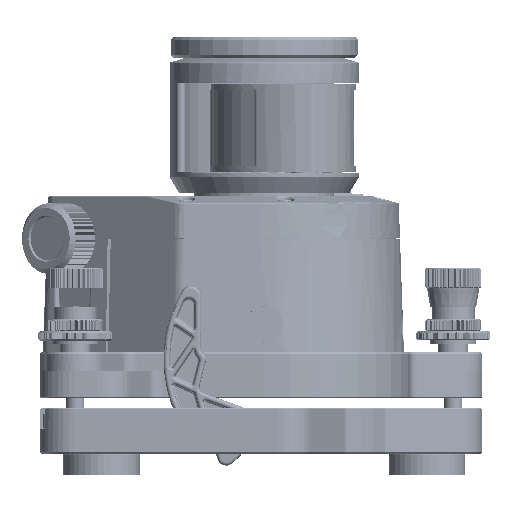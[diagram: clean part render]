
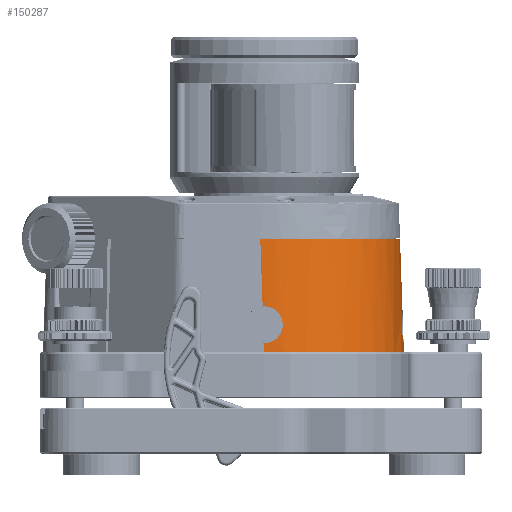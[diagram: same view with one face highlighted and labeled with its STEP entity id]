
A CAD part, front view. The second image highlights one B-rep face of the part: STEP entity #150287.
In plain terms, the highlighted cylindrical face has radius 45.5 mm (diameter 91 mm), a partial arc.
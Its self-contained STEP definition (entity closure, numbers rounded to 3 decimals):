
#680=ELLIPSE('',#156568,45.555,45.5);
#681=ELLIPSE('',#156569,45.555,45.5);
#15108=LINE('',#216321,#21443);
#15109=LINE('',#216323,#21444);
#15114=LINE('',#216369,#21449);
#15115=LINE('',#216371,#21450);
#21443=VECTOR('',#173618,1000.);
#21444=VECTOR('',#173619,1000.);
#21449=VECTOR('',#173630,1000.);
#21450=VECTOR('',#173631,1000.);
#28394=ORIENTED_EDGE('',*,*,#63193,.T.);
#28395=ORIENTED_EDGE('',*,*,#63189,.T.);
#28396=ORIENTED_EDGE('',*,*,#63191,.T.);
#28397=ORIENTED_EDGE('',*,*,#63194,.T.);
#28398=ORIENTED_EDGE('',*,*,#63195,.T.);
#28399=ORIENTED_EDGE('',*,*,#63185,.T.);
#28400=ORIENTED_EDGE('',*,*,#63180,.T.);
#28401=ORIENTED_EDGE('',*,*,#63182,.T.);
#28402=ORIENTED_EDGE('',*,*,#63184,.T.);
#28403=ORIENTED_EDGE('',*,*,#63196,.T.);
#63180=EDGE_CURVE('',#80719,#80720,#91918,.T.);
#63182=EDGE_CURVE('',#80720,#80721,#91919,.F.);
#63184=EDGE_CURVE('',#80721,#80722,#15108,.T.);
#63185=EDGE_CURVE('',#80723,#80719,#15109,.T.);
#63189=EDGE_CURVE('',#80726,#80727,#91920,.F.);
#63191=EDGE_CURVE('',#80727,#80728,#91921,.F.);
#63193=EDGE_CURVE('',#80729,#80726,#15114,.T.);
#63194=EDGE_CURVE('',#80728,#80730,#15115,.T.);
#63195=EDGE_CURVE('',#80730,#80723,#680,.T.);
#63196=EDGE_CURVE('',#80722,#80729,#681,.T.);
#80719=VERTEX_POINT('',#216285);
#80720=VERTEX_POINT('',#216286);
#80721=VERTEX_POINT('',#216288);
#80722=VERTEX_POINT('',#216322);
#80723=VERTEX_POINT('',#216324);
#80726=VERTEX_POINT('',#216347);
#80727=VERTEX_POINT('',#216348);
#80728=VERTEX_POINT('',#216350);
#80729=VERTEX_POINT('',#216370);
#80730=VERTEX_POINT('',#216372);
#91918=B_SPLINE_CURVE_WITH_KNOTS('',3,(#216281,#216282,#216283,#216284),
 .UNSPECIFIED.,.F.,.F.,(4,4),(-0.934,-0.926),
 .UNSPECIFIED.);
#91919=B_SPLINE_CURVE_WITH_KNOTS('',3,(#216289,#216290,#216291,#216292,
#216293,#216294,#216295,#216296,#216297,#216298,#216299,#216300,#216301,
#216302,#216303,#216304,#216305,#216306,#216307,#216308,#216309,#216310,
#216311,#216312,#216313,#216314,#216315,#216316,#216317,#216318),
 .UNSPECIFIED.,.F.,.F.,(4,1,1,1,1,1,1,1,1,1,1,1,1,1,1,1,1,1,1,1,1,1,1,1,
1,1,1,4),(0.,0.063,0.094,0.125,0.141,0.148,0.156,0.188,0.25,
0.281,0.313,0.375,0.391,0.406,0.438,0.5,0.563,0.594,0.625,0.641,
0.656,0.688,0.75,0.813,0.844,0.875,0.938,1.),.UNSPECIFIED.);
#91920=B_SPLINE_CURVE_WITH_KNOTS('',3,(#216331,#216332,#216333,#216334,
#216335,#216336,#216337,#216338,#216339,#216340,#216341,#216342,#216343,
#216344,#216345,#216346),.UNSPECIFIED.,.F.,.F.,(4,1,1,1,1,1,1,1,1,1,1,1,
1,4),(0.,0.125,0.188,0.25,0.313,0.375,0.5,0.563,0.625,0.688,0.75,0.813,
0.875,1.),.UNSPECIFIED.);
#91921=B_SPLINE_CURVE_WITH_KNOTS('',3,(#216351,#216352,#216353,#216354,
#216355,#216356,#216357,#216358,#216359,#216360,#216361,#216362,#216363,
#216364,#216365,#216366),.UNSPECIFIED.,.F.,.F.,(4,1,1,1,1,1,1,1,1,1,1,1,
1,4),(0.,0.125,0.188,0.25,0.313,0.375,0.5,0.563,0.625,0.688,0.75,0.813,
0.875,1.),.UNSPECIFIED.);
#92650=EDGE_LOOP('',(#28394,#28395,#28396,#28397,#28398,#28399,#28400,#28401,
#28402,#28403));
#99018=FACE_BOUND('',#92650,.T.);
#105251=CYLINDRICAL_SURFACE('',#156567,45.5);
#150287=ADVANCED_FACE('',(#99018),#105251,.T.);
#156567=AXIS2_PLACEMENT_3D('',#216368,#173628,#173629);
#156568=AXIS2_PLACEMENT_3D('',#216373,#173632,#173633);
#156569=AXIS2_PLACEMENT_3D('',#216374,#173634,#173635);
#173618=DIRECTION('',(-0.035,0.035,0.999));
#173619=DIRECTION('',(-0.035,0.035,0.999));
#173628=DIRECTION('',(-0.035,0.035,0.999));
#173629=DIRECTION('',(0.706,-0.706,0.049));
#173630=DIRECTION('',(0.035,-0.035,-0.999));
#173631=DIRECTION('',(0.035,-0.035,-0.999));
#173632=DIRECTION('',(0.,0.,1.));
#173633=DIRECTION('',(0.707,-0.707,0.));
#173634=DIRECTION('',(0.,0.,-1.));
#173635=DIRECTION('',(0.707,-0.707,0.));
#216281=CARTESIAN_POINT('',(45.395,0.077,3.004));
#216282=CARTESIAN_POINT('',(45.395,0.051,3.004));
#216283=CARTESIAN_POINT('',(45.395,0.026,3.004));
#216284=CARTESIAN_POINT('',(45.395,0.,3.004));
#216285=CARTESIAN_POINT('',(45.395,0.077,3.004));
#216286=CARTESIAN_POINT('',(45.395,0.,3.004));
#216288=CARTESIAN_POINT('',(44.977,0.495,14.976));
#216289=CARTESIAN_POINT('',(44.977,0.495,14.976));
#216290=CARTESIAN_POINT('',(44.976,0.1,15.009));
#216291=CARTESIAN_POINT('',(44.969,-0.469,15.));
#216292=CARTESIAN_POINT('',(44.948,-1.262,14.872));
#216293=CARTESIAN_POINT('',(44.93,-1.771,14.733));
#216294=CARTESIAN_POINT('',(44.916,-2.106,14.615));
#216295=CARTESIAN_POINT('',(44.906,-2.328,14.524));
#216296=CARTESIAN_POINT('',(44.9,-2.452,14.47));
#216297=CARTESIAN_POINT('',(44.876,-2.927,14.25));
#216298=CARTESIAN_POINT('',(44.835,-3.645,13.811));
#216299=CARTESIAN_POINT('',(44.783,-4.464,13.023));
#216300=CARTESIAN_POINT('',(44.747,-5.023,12.317));
#216301=CARTESIAN_POINT('',(44.728,-5.367,11.687));
#216302=CARTESIAN_POINT('',(44.721,-5.536,11.305));
#216303=CARTESIAN_POINT('',(44.716,-5.698,10.888));
#216304=CARTESIAN_POINT('',(44.716,-5.897,10.207));
#216305=CARTESIAN_POINT('',(44.736,-6.033,9.222));
#216306=CARTESIAN_POINT('',(44.782,-5.979,8.262));
#216307=CARTESIAN_POINT('',(44.836,-5.817,7.47));
#216308=CARTESIAN_POINT('',(44.878,-5.651,6.952));
#216309=CARTESIAN_POINT('',(44.91,-5.505,6.6));
#216310=CARTESIAN_POINT('',(44.933,-5.399,6.366));
#216311=CARTESIAN_POINT('',(44.99,-5.12,5.82));
#216312=CARTESIAN_POINT('',(45.106,-4.421,4.839));
#216313=CARTESIAN_POINT('',(45.223,-3.425,4.038));
#216314=CARTESIAN_POINT('',(45.283,-2.748,3.661));
#216315=CARTESIAN_POINT('',(45.324,-2.229,3.412));
#216316=CARTESIAN_POINT('',(45.382,-1.136,3.062));
#216317=CARTESIAN_POINT('',(45.394,-0.38,3.004));
#216318=CARTESIAN_POINT('',(45.395,0.,3.004));
#216321=CARTESIAN_POINT('',(45.483,-0.011,0.493));
#216322=CARTESIAN_POINT('',(44.208,1.264,37.));
#216323=CARTESIAN_POINT('',(45.483,-0.011,0.493));
#216324=CARTESIAN_POINT('',(45.5,-0.028,0.));
#216331=CARTESIAN_POINT('',(6.055,-44.743,8.979));
#216332=CARTESIAN_POINT('',(6.055,-44.727,9.373));
#216333=CARTESIAN_POINT('',(5.993,-44.712,9.988));
#216334=CARTESIAN_POINT('',(5.793,-44.708,10.782));
#216335=CARTESIAN_POINT('',(5.531,-44.716,11.454));
#216336=CARTESIAN_POINT('',(5.357,-44.725,11.801));
#216337=CARTESIAN_POINT('',(4.958,-44.749,12.487));
#216338=CARTESIAN_POINT('',(4.333,-44.79,13.253));
#216339=CARTESIAN_POINT('',(3.476,-44.844,13.934));
#216340=CARTESIAN_POINT('',(2.907,-44.876,14.279));
#216341=CARTESIAN_POINT('',(2.361,-44.904,14.533));
#216342=CARTESIAN_POINT('',(2.015,-44.92,14.669));
#216343=CARTESIAN_POINT('',(1.318,-44.946,14.87));
#216344=CARTESIAN_POINT('',(0.512,-44.968,14.996));
#216345=CARTESIAN_POINT('',(-0.105,-44.976,15.002));
#216346=CARTESIAN_POINT('',(-0.495,-44.977,14.966));
#216347=CARTESIAN_POINT('',(-0.495,-44.977,14.966));
#216348=CARTESIAN_POINT('',(6.055,-44.743,8.979));
#216350=CARTESIAN_POINT('',(-0.077,-45.395,3.));
#216351=CARTESIAN_POINT('',(-0.077,-45.395,3.));
#216352=CARTESIAN_POINT('',(0.298,-45.396,2.991));
#216353=CARTESIAN_POINT('',(0.885,-45.386,3.035));
#216354=CARTESIAN_POINT('',(1.65,-45.356,3.2));
#216355=CARTESIAN_POINT('',(2.293,-45.319,3.42));
#216356=CARTESIAN_POINT('',(2.655,-45.292,3.581));
#216357=CARTESIAN_POINT('',(3.334,-45.234,3.939));
#216358=CARTESIAN_POINT('',(4.074,-45.152,4.48));
#216359=CARTESIAN_POINT('',(4.79,-45.048,5.278));
#216360=CARTESIAN_POINT('',(5.15,-44.987,5.796));
#216361=CARTESIAN_POINT('',(5.423,-44.933,6.294));
#216362=CARTESIAN_POINT('',(5.561,-44.904,6.579));
#216363=CARTESIAN_POINT('',(5.814,-44.845,7.25));
#216364=CARTESIAN_POINT('',(5.998,-44.79,8.013));
#216365=CARTESIAN_POINT('',(6.055,-44.758,8.604));
#216366=CARTESIAN_POINT('',(6.055,-44.743,8.979));
#216368=CARTESIAN_POINT('',(0.011,-0.011,-1.095));
#216369=CARTESIAN_POINT('',(0.011,-45.483,0.493));
#216370=CARTESIAN_POINT('',(-1.264,-44.208,37.));
#216371=CARTESIAN_POINT('',(0.011,-45.483,0.493));
#216372=CARTESIAN_POINT('',(0.028,-45.5,0.));
#216373=CARTESIAN_POINT('',(-0.028,0.028,0.));
#216374=CARTESIAN_POINT('',(-1.32,1.32,37.));
